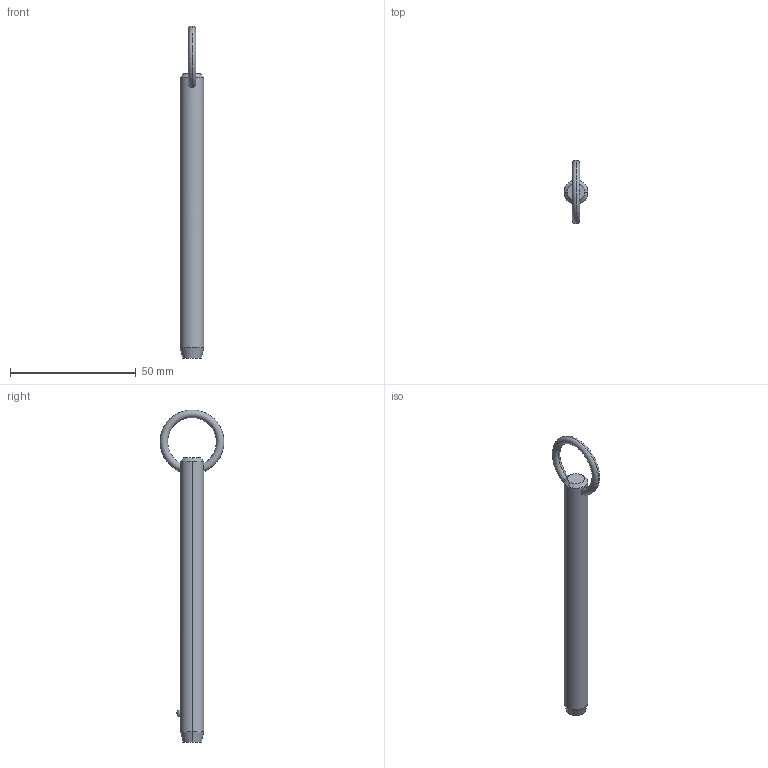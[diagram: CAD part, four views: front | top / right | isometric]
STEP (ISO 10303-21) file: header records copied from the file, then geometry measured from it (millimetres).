
FILE_DESCRIPTION (( 'STEP AP203' ), '1' );
FILE_NAME ('P1250.037-370.step', '2019-07-29T20:05:28', ( '' ), ( '' ), 'SwSTEP 2.0', 'SolidWorks 2017', '' );
FILE_SCHEMA (( 'CONFIG_CONTROL_DESIGN' ));
Length unit declared in the file: millimetre
Products named in the file (1): P1250.037-370
Bounding box: 9.52 x 25.39 x 132.1 mm (x, y, z)
Volume: 8398.2 mm3; surface area: 4023.3 mm2
Topology: 1 solids, 1 shells, 12 faces, 28 edges, 17 vertices
Faces by surface type: cone 4, torus 2, sphere 2, cylinder 2, plane 2
Entity records: 523 total; most frequent: CARTESIAN_POINT 190, DIRECTION 56, ORIENTED_EDGE 48, AXIS2_PLACEMENT_3D 25, EDGE_CURVE 24, VERTEX_POINT 15, EDGE_LOOP 15, ADVANCED_FACE 12
